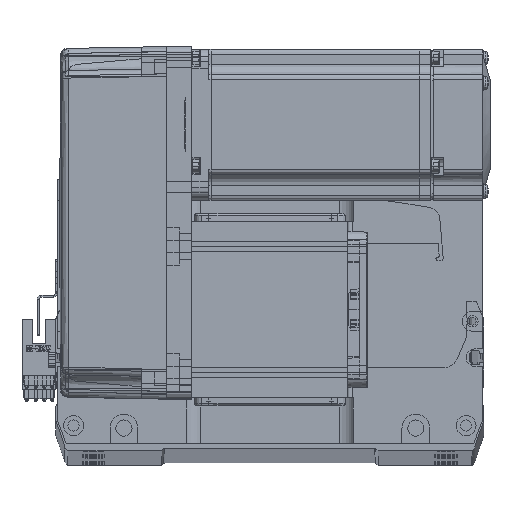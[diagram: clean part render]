
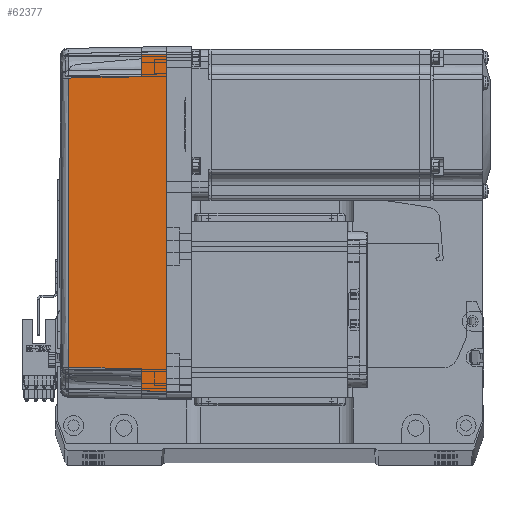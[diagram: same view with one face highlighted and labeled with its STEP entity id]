
A CAD part, top view. The second image highlights one B-rep face of the part: STEP entity #62377.
In plain terms, the highlighted planar face has unit normal (-0.018, 0, 1) as drawn and (0, 1, 0.017) by its records, which use the part's own axes.
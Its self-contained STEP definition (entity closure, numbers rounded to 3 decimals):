
#486 = EDGE_LOOP ( 'NONE', ( #62971, #44161, #45013, #69841, #19975, #46939, #29919, #64363 ) ) ;
#1098 = CARTESIAN_POINT ( 'NONE',  ( 70., 36., 0. ) ) ;
#1160 = CARTESIAN_POINT ( 'NONE',  ( 57.495, 35.32, 38.985 ) ) ;
#2371 = DIRECTION ( 'NONE',  ( 1., 0., 0. ) ) ;
#2950 = CARTESIAN_POINT ( 'NONE',  ( -58., 35.825, 10. ) ) ;
#4207 = CARTESIAN_POINT ( 'NONE',  ( -58., 35.825, 10. ) ) ;
#4645 = VERTEX_POINT ( 'NONE', #10993 ) ;
#4722 = CARTESIAN_POINT ( 'NONE',  ( 67., 36., 0. ) ) ;
#7429 = VECTOR ( 'NONE', #28861, 1000. ) ;
#7738 = LINE ( 'NONE', #35215, #13891 ) ;
#10654 = LINE ( 'NONE', #26391, #57891 ) ;
#10993 = CARTESIAN_POINT ( 'NONE',  ( 58., 35.825, 10. ) ) ;
#11909 = EDGE_CURVE ( 'NONE', #71583, #33189, #34387, .T. ) ;
#12451 = DIRECTION ( 'NONE',  ( 0.017, -0.017, 1. ) ) ;
#13891 = VECTOR ( 'NONE', #26564, 1000. ) ;
#14176 = CARTESIAN_POINT ( 'NONE',  ( 70., 35.825, 10. ) ) ;
#15650 = CARTESIAN_POINT ( 'NONE',  ( -66.826, 35.825, 10. ) ) ;
#16096 = VERTEX_POINT ( 'NONE', #51763 ) ;
#16934 = FACE_OUTER_BOUND ( 'NONE', #486, .T. ) ;
#17852 = DIRECTION ( 'NONE',  ( 0., -0.017, 1. ) ) ;
#19975 = ORIENTED_EDGE ( 'NONE', *, *, #57887, .T. ) ;
#21325 = VERTEX_POINT ( 'NONE', #15650 ) ;
#22694 = EDGE_CURVE ( 'NONE', #31653, #16096, #7738, .T. ) ;
#24405 = LINE ( 'NONE', #1160, #44531 ) ;
#25256 = EDGE_CURVE ( 'NONE', #4645, #16096, #64129, .T. ) ;
#26197 = CARTESIAN_POINT ( 'NONE',  ( -19.165, 35.316, 39.181 ) ) ;
#26391 = CARTESIAN_POINT ( 'NONE',  ( 70., 35.825, 10. ) ) ;
#26564 = DIRECTION ( 'NONE',  ( -0.017, -0.017, 1. ) ) ;
#26747 = VECTOR ( 'NONE', #64112, 1000. ) ;
#28558 = PLANE ( 'NONE',  #45892 ) ;
#28861 = DIRECTION ( 'NONE',  ( 1., 0., 0. ) ) ;
#29919 = ORIENTED_EDGE ( 'NONE', *, *, #22694, .F. ) ;
#31653 = VERTEX_POINT ( 'NONE', #4722 ) ;
#31742 = DIRECTION ( 'NONE',  ( 1., 0., 0. ) ) ;
#31954 = LINE ( 'NONE', #46395, #39782 ) ;
#33189 = VERTEX_POINT ( 'NONE', #55244 ) ;
#34387 = B_SPLINE_CURVE_WITH_KNOTS ( 'NONE', 3,
 ( #59394, #26197, #71578, #54981 ),
 .UNSPECIFIED., .F., .F.,
 ( 4, 4 ),
 ( 0., 1. ),
 .UNSPECIFIED. ) ;
#34616 = CARTESIAN_POINT ( 'NONE',  ( -57.495, 35.32, 38.985 ) ) ;
#35215 = CARTESIAN_POINT ( 'NONE',  ( 67.001, 36.001, -0.052 ) ) ;
#36353 = LINE ( 'NONE', #2950, #26747 ) ;
#36947 = VERTEX_POINT ( 'NONE', #59896 ) ;
#39782 = VECTOR ( 'NONE', #12451, 1000. ) ;
#40265 = DIRECTION ( 'NONE',  ( 0., 1., 0.017 ) ) ;
#40982 = EDGE_CURVE ( 'NONE', #51493, #71583, #36353, .T. ) ;
#44161 = ORIENTED_EDGE ( 'NONE', *, *, #55975, .T. ) ;
#44531 = VECTOR ( 'NONE', #56489, 1000. ) ;
#45013 = ORIENTED_EDGE ( 'NONE', *, *, #40982, .T. ) ;
#45726 = CARTESIAN_POINT ( 'NONE',  ( 0., 36., 0. ) ) ;
#45892 = AXIS2_PLACEMENT_3D ( 'NONE', #1098, #40265, #17852 ) ;
#46395 = CARTESIAN_POINT ( 'NONE',  ( -67., 36., 0. ) ) ;
#46939 = ORIENTED_EDGE ( 'NONE', *, *, #25256, .T. ) ;
#51493 = VERTEX_POINT ( 'NONE', #4207 ) ;
#51535 = EDGE_CURVE ( 'NONE', #36947, #31653, #65182, .T. ) ;
#51763 = CARTESIAN_POINT ( 'NONE',  ( 66.826, 35.825, 10. ) ) ;
#53757 = EDGE_CURVE ( 'NONE', #36947, #21325, #31954, .T. ) ;
#54981 = CARTESIAN_POINT ( 'NONE',  ( 57.495, 35.32, 38.985 ) ) ;
#55244 = CARTESIAN_POINT ( 'NONE',  ( 57.495, 35.32, 38.985 ) ) ;
#55359 = VECTOR ( 'NONE', #2371, 1000. ) ;
#55975 = EDGE_CURVE ( 'NONE', #21325, #51493, #10654, .T. ) ;
#56489 = DIRECTION ( 'NONE',  ( 0.017, 0.017, -1. ) ) ;
#57887 = EDGE_CURVE ( 'NONE', #33189, #4645, #24405, .T. ) ;
#57891 = VECTOR ( 'NONE', #31742, 1000. ) ;
#59394 = CARTESIAN_POINT ( 'NONE',  ( -57.495, 35.32, 38.985 ) ) ;
#59896 = CARTESIAN_POINT ( 'NONE',  ( -67., 36., 0. ) ) ;
#62377 = ADVANCED_FACE ( 'NONE', ( #16934 ), #28558, .T. ) ;
#62971 = ORIENTED_EDGE ( 'NONE', *, *, #53757, .T. ) ;
#64112 = DIRECTION ( 'NONE',  ( 0.017, -0.017, 1. ) ) ;
#64129 = LINE ( 'NONE', #14176, #55359 ) ;
#64363 = ORIENTED_EDGE ( 'NONE', *, *, #51535, .F. ) ;
#65182 = LINE ( 'NONE', #45726, #7429 ) ;
#69841 = ORIENTED_EDGE ( 'NONE', *, *, #11909, .T. ) ;
#71578 = CARTESIAN_POINT ( 'NONE',  ( 19.165, 35.316, 39.181 ) ) ;
#71583 = VERTEX_POINT ( 'NONE', #34616 ) ;
